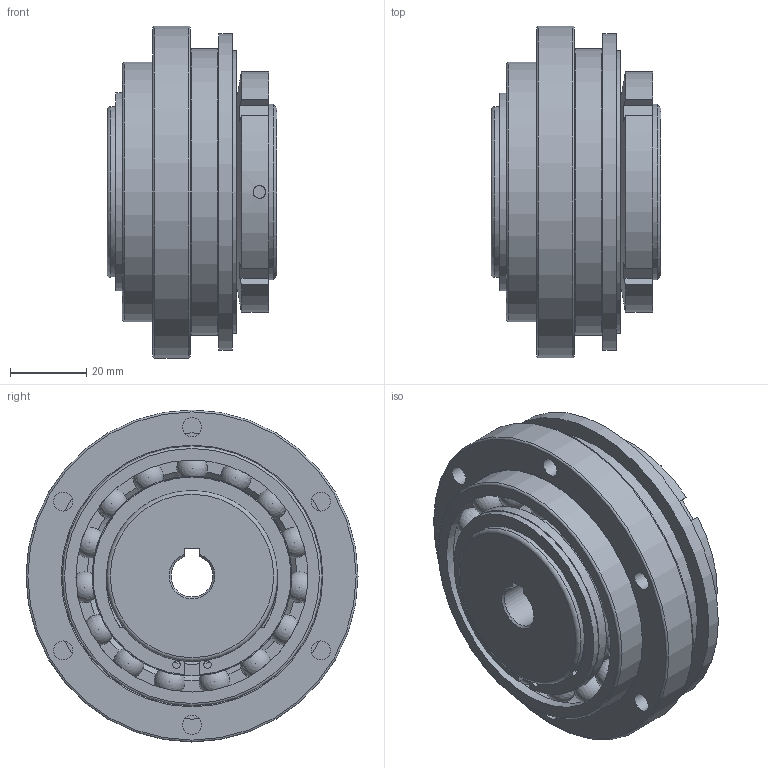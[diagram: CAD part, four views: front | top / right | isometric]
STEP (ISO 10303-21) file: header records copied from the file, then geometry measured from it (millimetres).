
FILE_DESCRIPTION( ( 'Unknown' ), '1' );
FILE_NAME( 'F:/JAKOB-STEP+IGES-Dateien/STEP-Dateien/SKW/SKW 60.stp', 'Unknown', ( 'Unknown' ), ( 'Unknown' ), 'PSStep 10.1', 'Unknown', ' ' );
FILE_SCHEMA( ( 'AUTOMOTIVE_DESIGN { 1 0 10303 214 1 1 1 1 }' ) );
Length unit declared in the file: millimetre
Products named in the file (1): 27920752
Bounding box: 44.5 x 87 x 87 mm (x, y, z)
Volume: 163803.5 mm3; surface area: 40905.4 mm2
Topology: 1 solids, 4 shells, 163 faces, 525 edges, 347 vertices
Faces by surface type: plane 59, torus 42, cylinder 40, sphere 15, cone 7
Full cylindrical faces by diameter (mm): 2 x2, 3.3 x3, 5 x6, 42.5 x1, 44.8 x1, 45 x2, 46 x2, 46.5 x1, 52.3 x2, 60.8 x2, 68 x2, 72.6 x2, 74 x1, 75 x1, 83 x1, 87 x1
Entity records: 7912 total; most frequent: CARTESIAN_POINT 2638, ORIENTED_EDGE 800, DIRECTION 776, EDGE_CURVE 400, AXIS2_PLACEMENT_3D 344, VERTEX_POINT 286, EDGE_LOOP 260, FACE_OUTER_BOUND 190
